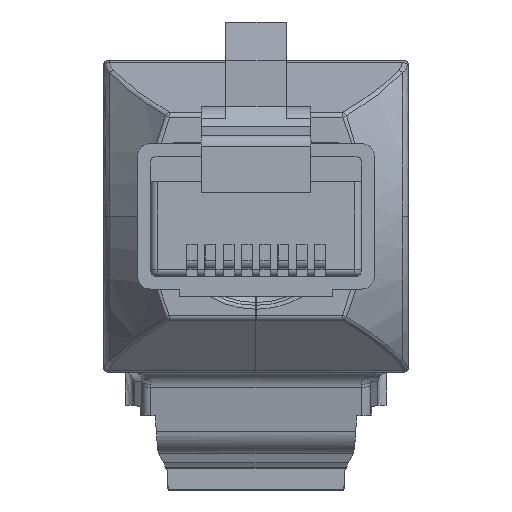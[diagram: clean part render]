
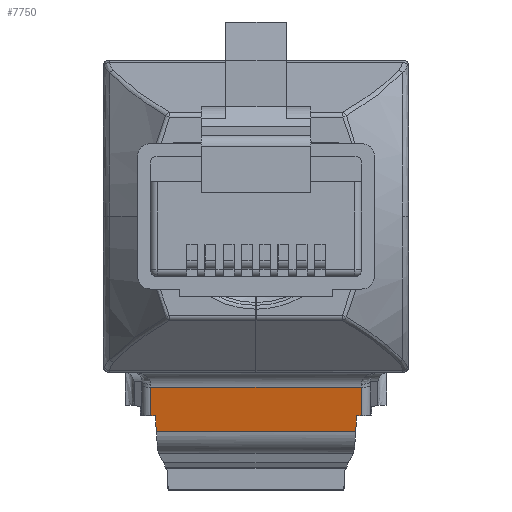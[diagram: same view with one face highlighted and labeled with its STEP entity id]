
A CAD part, left-side view. The second image highlights one B-rep face of the part: STEP entity #7750.
In plain terms, the highlighted planar face has unit normal (-0.985, 0, -0.174).
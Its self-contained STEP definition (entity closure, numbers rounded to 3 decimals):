
#42 = EDGE_CURVE ( 'NONE', #46136, #39650, #67711, .T. ) ;
#1389 = ORIENTED_EDGE ( 'NONE', *, *, #33897, .T. ) ;
#1797 = VECTOR ( 'NONE', #16121, 1000. ) ;
#3291 = LINE ( 'NONE', #5129, #43766 ) ;
#5129 = CARTESIAN_POINT ( 'NONE',  ( -18.636, 5.875, -8.426 ) ) ;
#5144 = CARTESIAN_POINT ( 'NONE',  ( -18.2, -6.8, -10.896 ) ) ;
#7750 = ADVANCED_FACE ( 'NONE', ( #57443 ), #50827, .T. ) ;
#9112 = CARTESIAN_POINT ( 'NONE',  ( -18.2, -5.556, -10.896 ) ) ;
#10123 = VECTOR ( 'NONE', #12480, 1000. ) ;
#10688 = CARTESIAN_POINT ( 'NONE',  ( -18.357, 5.61, -10.006 ) ) ;
#12480 = DIRECTION ( 'NONE',  ( 0., 1., 0. ) ) ;
#13034 = CARTESIAN_POINT ( 'NONE',  ( -18.357, -5.861, -10.006 ) ) ;
#14394 = DIRECTION ( 'NONE',  ( -0.173, -0.059, 0.983 ) ) ;
#16121 = DIRECTION ( 'NONE',  ( -0.174, -0.009, 0.985 ) ) ;
#16389 = VECTOR ( 'NONE', #33457, 1000. ) ;
#18221 = CARTESIAN_POINT ( 'NONE',  ( -18.357, 5.61, -10.006 ) ) ;
#19188 = LINE ( 'NONE', #9112, #41557 ) ;
#19200 = EDGE_CURVE ( 'NONE', #45642, #46006, #19188, .T. ) ;
#19216 = DIRECTION ( 'NONE',  ( -0.985, 0., -0.174 ) ) ;
#24793 = ORIENTED_EDGE ( 'NONE', *, *, #30523, .T. ) ;
#28475 = DIRECTION ( 'NONE',  ( 0.173, -0.059, -0.983 ) ) ;
#30325 = CARTESIAN_POINT ( 'NONE',  ( -18.357, 14.153, -10.006 ) ) ;
#30523 = EDGE_CURVE ( 'NONE', #39650, #31918, #33296, .T. ) ;
#31346 = LINE ( 'NONE', #49139, #16389 ) ;
#31499 = CARTESIAN_POINT ( 'NONE',  ( -18.357, -5.861, -10.006 ) ) ;
#31918 = VERTEX_POINT ( 'NONE', #56077 ) ;
#32136 = DIRECTION ( 'NONE',  ( 0., -1., 0. ) ) ;
#32697 = EDGE_CURVE ( 'NONE', #61073, #66106, #47484, .T. ) ;
#33296 = LINE ( 'NONE', #54263, #10123 ) ;
#33457 = DIRECTION ( 'NONE',  ( 0., -1., 0. ) ) ;
#33897 = EDGE_CURVE ( 'NONE', #58156, #61073, #56645, .T. ) ;
#36023 = ORIENTED_EDGE ( 'NONE', *, *, #19200, .T. ) ;
#37805 = CARTESIAN_POINT ( 'NONE',  ( -18.357, -5.61, -10.006 ) ) ;
#38274 = ORIENTED_EDGE ( 'NONE', *, *, #61321, .T. ) ;
#39650 = VERTEX_POINT ( 'NONE', #63449 ) ;
#40272 = DIRECTION ( 'NONE',  ( 0.174, 0., -0.985 ) ) ;
#40507 = CARTESIAN_POINT ( 'NONE',  ( -18.636, -6.8, -8.426 ) ) ;
#41557 = VECTOR ( 'NONE', #14394, 1000. ) ;
#42968 = EDGE_LOOP ( 'NONE', ( #59105, #36023, #68231, #50020, #24793, #38274, #1389, #58217 ) ) ;
#43443 = EDGE_CURVE ( 'NONE', #46006, #46136, #31346, .T. ) ;
#43632 = LINE ( 'NONE', #5144, #59225 ) ;
#43680 = CARTESIAN_POINT ( 'NONE',  ( -18.2, -5.556, -10.896 ) ) ;
#43766 = VECTOR ( 'NONE', #62772, 1000. ) ;
#45642 = VERTEX_POINT ( 'NONE', #43680 ) ;
#46006 = VERTEX_POINT ( 'NONE', #37805 ) ;
#46136 = VERTEX_POINT ( 'NONE', #13034 ) ;
#46187 = DIRECTION ( 'NONE',  ( 0., -1., 0. ) ) ;
#47484 = LINE ( 'NONE', #18221, #63174 ) ;
#48335 = VECTOR ( 'NONE', #46187, 1000. ) ;
#48621 = AXIS2_PLACEMENT_3D ( 'NONE', #40507, #19216, #40272 ) ;
#49139 = CARTESIAN_POINT ( 'NONE',  ( -18.357, -14.153, -10.006 ) ) ;
#50020 = ORIENTED_EDGE ( 'NONE', *, *, #42, .T. ) ;
#50827 = PLANE ( 'NONE',  #48621 ) ;
#52744 = CARTESIAN_POINT ( 'NONE',  ( -18.2, 5.556, -10.896 ) ) ;
#54263 = CARTESIAN_POINT ( 'NONE',  ( -18.636, -6.8, -8.426 ) ) ;
#56077 = CARTESIAN_POINT ( 'NONE',  ( -18.636, 5.875, -8.426 ) ) ;
#56645 = LINE ( 'NONE', #30325, #48335 ) ;
#57443 = FACE_OUTER_BOUND ( 'NONE', #42968, .T. ) ;
#58156 = VERTEX_POINT ( 'NONE', #58258 ) ;
#58217 = ORIENTED_EDGE ( 'NONE', *, *, #32697, .T. ) ;
#58258 = CARTESIAN_POINT ( 'NONE',  ( -18.357, 5.861, -10.006 ) ) ;
#59105 = ORIENTED_EDGE ( 'NONE', *, *, #59826, .T. ) ;
#59225 = VECTOR ( 'NONE', #32136, 1000. ) ;
#59826 = EDGE_CURVE ( 'NONE', #66106, #45642, #43632, .T. ) ;
#61073 = VERTEX_POINT ( 'NONE', #10688 ) ;
#61321 = EDGE_CURVE ( 'NONE', #31918, #58156, #3291, .T. ) ;
#62772 = DIRECTION ( 'NONE',  ( 0.174, -0.009, -0.985 ) ) ;
#63174 = VECTOR ( 'NONE', #28475, 1000. ) ;
#63449 = CARTESIAN_POINT ( 'NONE',  ( -18.636, -5.875, -8.426 ) ) ;
#66106 = VERTEX_POINT ( 'NONE', #52744 ) ;
#67711 = LINE ( 'NONE', #31499, #1797 ) ;
#68231 = ORIENTED_EDGE ( 'NONE', *, *, #43443, .T. ) ;
